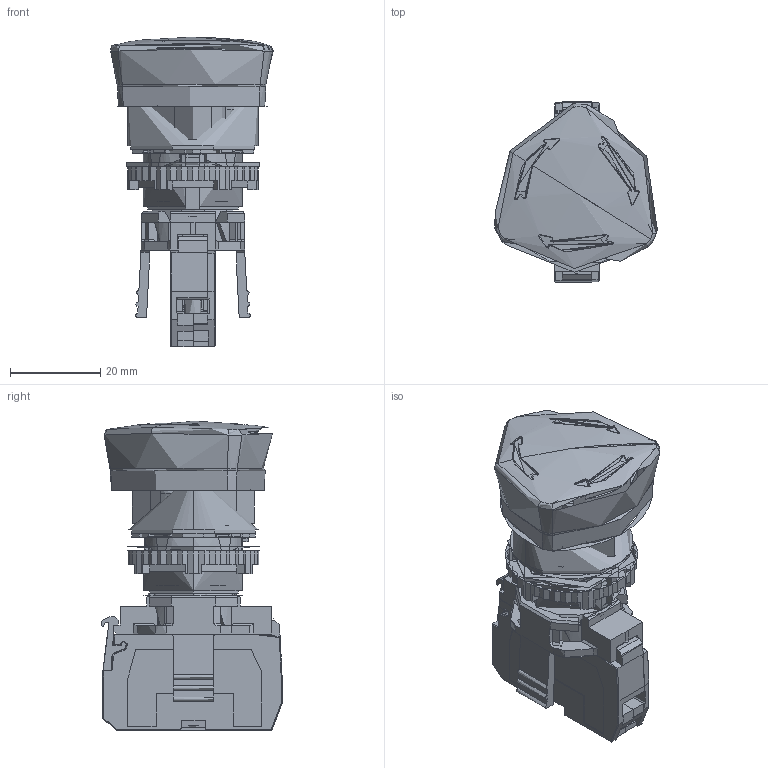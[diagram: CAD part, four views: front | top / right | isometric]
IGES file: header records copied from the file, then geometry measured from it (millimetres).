
Start section: START RECORD GO HERE
Global section: file name: L22ED01D; native system: IBM CATIA IGES - CATIA SOLUTIONS V4RELEASE 2.4 REFRESH 01; preprocessor: CATIA SOLUTIONS V4RELEASE 2.4 REFRESH 01; organization: DASSAULT SYSTEMES; date: 080118.102957; units: millimetre
Bounding box: 36.09 x 39.95 x 68.75 mm (x, y, z)
Topology: 0 solids, 0 shells, 2974 faces, 33513 edges, 48959 vertices
Faces by surface type: extrusion 2061, revolution 642, bspline 222, plane 49
